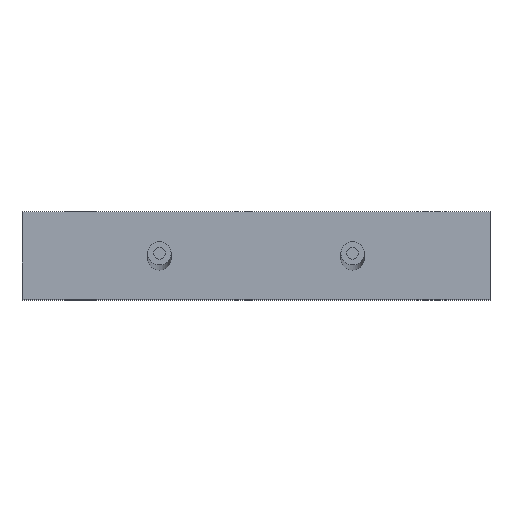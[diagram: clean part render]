
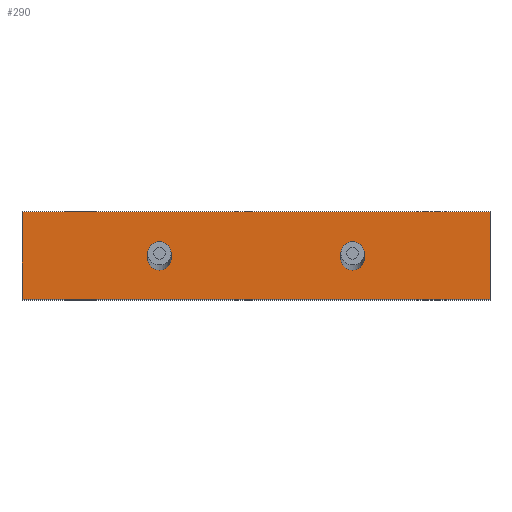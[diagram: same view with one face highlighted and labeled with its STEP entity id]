
A CAD part, top view. The second image highlights one B-rep face of the part: STEP entity #290.
In plain terms, the highlighted planar face has unit normal (0, 0, 1).
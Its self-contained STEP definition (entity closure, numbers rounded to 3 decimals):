
#13=LINE($,#440,#25);
#16=LINE($,#454,#28);
#19=LINE($,#460,#31);
#22=LINE($,#473,#34);
#25=VECTOR($,#365,15.);
#28=VECTOR($,#378,80.);
#31=VECTOR($,#383,15.);
#34=VECTOR($,#396,80.);
#45=PLANE($,#327);
#68=FACE_BOUND($,#119,.T.);
#69=FACE_BOUND($,#120,.T.);
#70=FACE_BOUND($,#121,.T.);
#119=EDGE_LOOP($,(#240));
#120=EDGE_LOOP($,(#241));
#121=EDGE_LOOP($,(#242,#243,#244,#245));
#125=CIRCLE($,#300,2.);
#129=CIRCLE($,#308,2.);
#141=VERTEX_POINT($,#420);
#145=VERTEX_POINT($,#432);
#146=VERTEX_POINT($,#436);
#148=VERTEX_POINT($,#439);
#154=VERTEX_POINT($,#453);
#156=VERTEX_POINT($,#459);
#165=EDGE_CURVE($,#141,#141,#125,.T.);
#169=EDGE_CURVE($,#145,#145,#129,.T.);
#171=EDGE_CURVE($,#148,#146,#13,.T.);
#178=EDGE_CURVE($,#154,#148,#16,.T.);
#181=EDGE_CURVE($,#156,#154,#19,.T.);
#188=EDGE_CURVE($,#146,#156,#22,.T.);
#240=ORIENTED_EDGE($,*,*,#165,.T.);
#241=ORIENTED_EDGE($,*,*,#169,.T.);
#242=ORIENTED_EDGE($,*,*,#188,.T.);
#243=ORIENTED_EDGE($,*,*,#181,.T.);
#244=ORIENTED_EDGE($,*,*,#178,.T.);
#245=ORIENTED_EDGE($,*,*,#171,.T.);
#290=ADVANCED_FACE($,(#68,#69,#70),#45,.T.);
#300=AXIS2_PLACEMENT_3D($,#421,#342,#343);
#308=AXIS2_PLACEMENT_3D($,#433,#358,#359);
#327=AXIS2_PLACEMENT_3D($,#480,#408,#409);
#342=DIRECTION('center_axis',(0.,0.,
-1.));
#343=DIRECTION('ref_axis',(-1.,0.,0.));
#358=DIRECTION('center_axis',(0.,0.,
-1.));
#359=DIRECTION('ref_axis',(-1.,0.,0.));
#365=DIRECTION($,(0.,1.,0.));
#378=DIRECTION($,(1.,0.,0.));
#383=DIRECTION($,(0.,-1.,0.));
#396=DIRECTION($,(-1.,0.,0.));
#408=DIRECTION('center_axis',(0.,0.,
1.));
#409=DIRECTION('ref_axis',(1.,0.,0.));
#420=CARTESIAN_POINT('',(53.302,0.284,71.656));
#421=CARTESIAN_POINT('Origin',(51.302,0.284,71.656));
#432=CARTESIAN_POINT('',(86.302,0.284,71.656));
#433=CARTESIAN_POINT('Origin',(84.302,0.284,71.656));
#436=CARTESIAN_POINT('',(107.802,8.284,71.656));
#439=CARTESIAN_POINT('',(107.802,-6.716,71.656));
#440=CARTESIAN_POINT($,(107.802,8.284,71.656));
#453=CARTESIAN_POINT('',(27.802,-6.716,71.656));
#454=CARTESIAN_POINT($,(107.802,-6.716,71.656));
#459=CARTESIAN_POINT('',(27.802,8.284,71.656));
#460=CARTESIAN_POINT($,(27.802,-6.716,71.656));
#473=CARTESIAN_POINT($,(27.802,8.284,71.656));
#480=CARTESIAN_POINT('Origin',(67.802,0.784,71.656));
